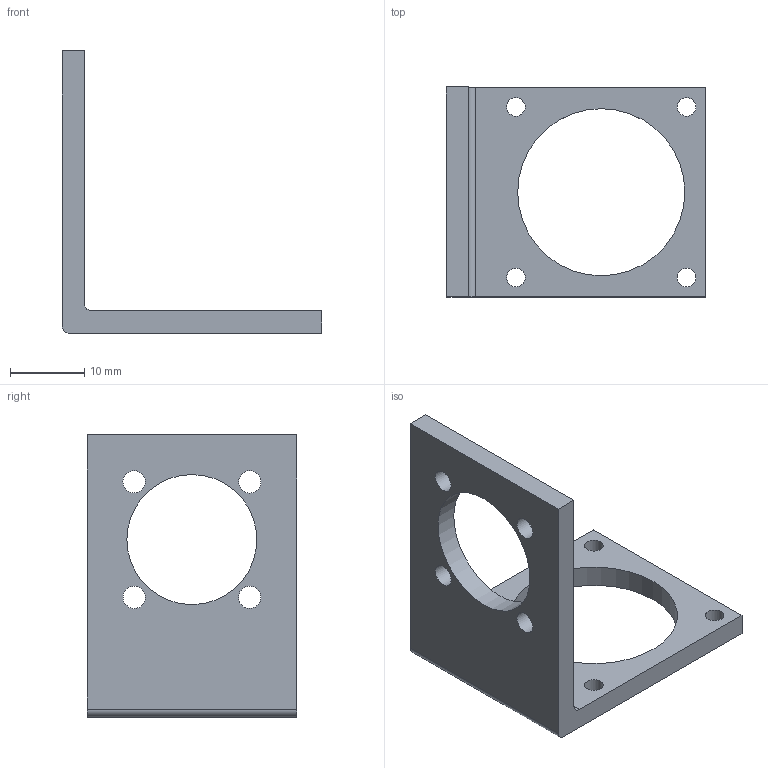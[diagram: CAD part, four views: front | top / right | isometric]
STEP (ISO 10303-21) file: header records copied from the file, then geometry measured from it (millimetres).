
FILE_DESCRIPTION(/* description */ ('Alibre Inc.'),/* implementation_level */ '2;1');
FILE_NAME(/* name */ 'export0',/* time_stamp */ '2014-04-22T09:39:02-06:00',/* author */ (''),/* organization */ (''),/* preprocessor_version */ 'ST-DEVELOPER v14',/* originating_system */ 'Alibre',/* authorisation */ '');
FILE_SCHEMA (('CONFIG_CONTROL_DESIGN'));
Length unit declared in the file: centimetre
Products named in the file (1): ID_1
Bounding box: 35 x 28.21 x 38 mm (x, y, z)
Volume: 3864.9 mm3; surface area: 3726 mm2
Topology: 1 solids, 1 shells, 22 faces, 60 edges, 40 vertices
Faces by surface type: cylinder 12, plane 10
Full cylindrical faces by diameter (mm): 2.5 x4, 3 x4, 17.5 x1, 22.5 x1
Entity records: 769 total; most frequent: CARTESIAN_POINT 111, DIRECTION 107, ORIENTED_EDGE 100, EDGE_LOOP 52, FACE_BOUND 52, EDGE_CURVE 50, AXIS2_PLACEMENT_3D 46, VERTEX_POINT 40
